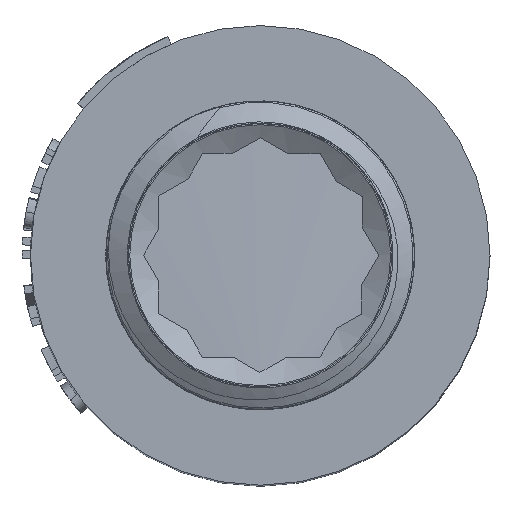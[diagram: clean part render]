
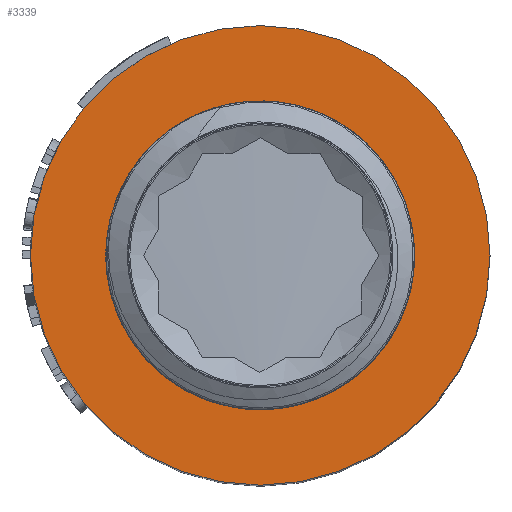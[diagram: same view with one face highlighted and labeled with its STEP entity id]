
A CAD part, top view. The second image highlights one B-rep face of the part: STEP entity #3339.
In plain terms, the highlighted planar face has unit normal (0, 0, 1).
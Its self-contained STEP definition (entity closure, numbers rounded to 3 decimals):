
#82=FACE_BOUND('',#749,.T.);
#399=PLANE('',#3581);
#546=FACE_OUTER_BOUND('',#748,.T.);
#748=EDGE_LOOP('',(#2848,#2849));
#749=EDGE_LOOP('',(#2850,#2851));
#1196=CIRCLE('',#3413,7.825);
#1199=CIRCLE('',#3416,7.825);
#1220=CIRCLE('',#3456,13.65);
#1221=CIRCLE('',#3457,13.65);
#1299=VERTEX_POINT('',#4315);
#1300=VERTEX_POINT('',#4316);
#1347=VERTEX_POINT('',#4563);
#1348=VERTEX_POINT('',#4564);
#1639=EDGE_CURVE('',#1299,#1300,#1196,.T.);
#1643=EDGE_CURVE('',#1300,#1299,#1199,.T.);
#1710=EDGE_CURVE('',#1347,#1348,#1220,.T.);
#1711=EDGE_CURVE('',#1348,#1347,#1221,.T.);
#2848=ORIENTED_EDGE('',*,*,#1710,.T.);
#2849=ORIENTED_EDGE('',*,*,#1711,.T.);
#2850=ORIENTED_EDGE('',*,*,#1639,.F.);
#2851=ORIENTED_EDGE('',*,*,#1643,.F.);
#3339=ADVANCED_FACE('',(#546,#82),#399,.T.);
#3413=AXIS2_PLACEMENT_3D('',#4317,#3651,#3652);
#3416=AXIS2_PLACEMENT_3D('',#4323,#3658,#3659);
#3456=AXIS2_PLACEMENT_3D('',#4565,#3774,#3775);
#3457=AXIS2_PLACEMENT_3D('',#4566,#3776,#3777);
#3581=AXIS2_PLACEMENT_3D('',#6427,#4155,#4156);
#3651=DIRECTION('center_axis',(0.,0.,1.));
#3652=DIRECTION('ref_axis',(1.,0.,0.));
#3658=DIRECTION('center_axis',(0.,0.,1.));
#3659=DIRECTION('ref_axis',(1.,0.,0.));
#3774=DIRECTION('center_axis',(0.,0.,1.));
#3775=DIRECTION('ref_axis',(1.,0.,0.));
#3776=DIRECTION('center_axis',(0.,0.,1.));
#3777=DIRECTION('ref_axis',(1.,0.,0.));
#4155=DIRECTION('center_axis',(0.,0.,1.));
#4156=DIRECTION('ref_axis',(1.,0.,0.));
#4315=CARTESIAN_POINT('',(0.,7.825,-10.));
#4316=CARTESIAN_POINT('',(0.,-7.825,-10.));
#4317=CARTESIAN_POINT('Origin',(0.,0.,-10.));
#4323=CARTESIAN_POINT('Origin',(0.,0.,-10.));
#4563=CARTESIAN_POINT('',(0.,-13.65,-10.));
#4564=CARTESIAN_POINT('',(0.,13.65,-10.));
#4565=CARTESIAN_POINT('Origin',(0.,0.,-10.));
#4566=CARTESIAN_POINT('Origin',(0.,0.,-10.));
#6427=CARTESIAN_POINT('Origin',(0.,-9.17,-10.));
